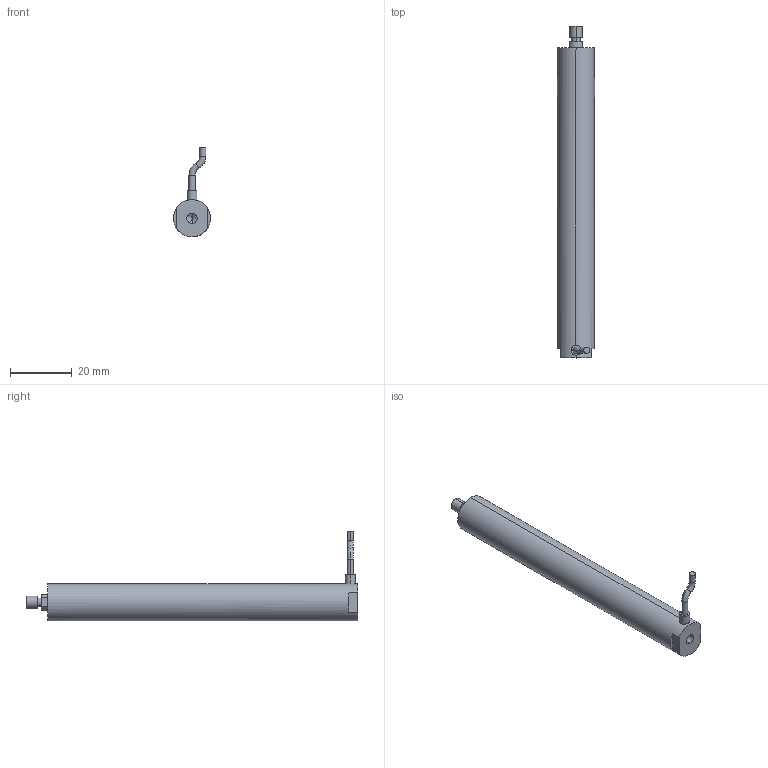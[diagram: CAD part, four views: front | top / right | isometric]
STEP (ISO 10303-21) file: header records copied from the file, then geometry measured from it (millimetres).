
FILE_DESCRIPTION (( 'STEP AP203' ), '1' );
FILE_NAME ('俋蹟恇宒100VS12.STEP', '2020-08-19T06:01:21', ( 'User' ), ( 'china' ), 'SwSTEP 2.0', 'SolidWorks 2016', '' );
FILE_SCHEMA (( 'CONFIG_CONTROL_DESIGN' ));
Length unit declared in the file: millimetre
Products named in the file (1): 俋蹟恇宒100VS12
Bounding box: 12 x 107.6 x 29.08 mm (x, y, z)
Volume: 11457.6 mm3; surface area: 4314.4 mm2
Topology: 1 solids, 1 shells, 934 faces, 2504 edges, 1665 vertices
Faces by surface type: bspline 509, plane 312, cylinder 107, torus 4, cone 2
Entity records: 44030 total; most frequent: CARTESIAN_POINT 25134, ORIENTED_EDGE 5004, EDGE_CURVE 2502, DIRECTION 1959, B_SPLINE_CURVE_WITH_KNOTS 1671, VERTEX_POINT 1665, EDGE_LOOP 1029, FACE_OUTER_BOUND 934
